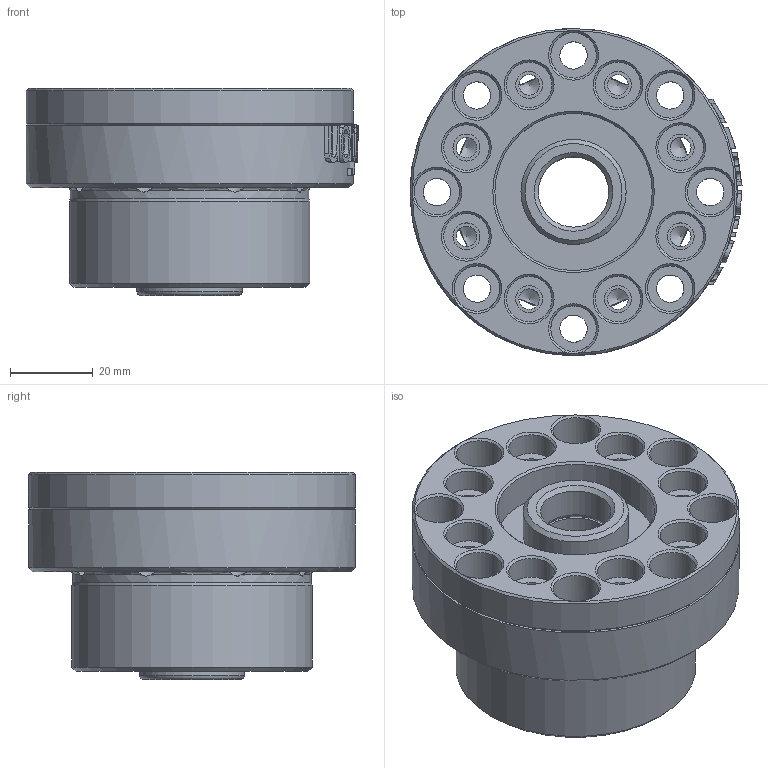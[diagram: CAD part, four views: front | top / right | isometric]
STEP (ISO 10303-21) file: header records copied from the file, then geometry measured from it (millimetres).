
FILE_DESCRIPTION(/* description */ (''),/* implementation_level */ '2;1');
FILE_NAME(/* name */ 'MBK17DF.stp',/* time_stamp */ '2016-10-26T18:37:31+08:00',/* author */ (''),/* organization */ (''),/* preprocessor_version */ 'ST-DEVELOPER v15',/* originating_system */ 'SIEMENS PLM Software NX 8.5',/* authorisation */ '');
FILE_SCHEMA (('CONFIG_CONTROL_DESIGN'));
Length unit declared in the file: millimetre
Products named in the file (1): MBK17DF
Bounding box: 80.18 x 79 x 50 mm (x, y, z)
Volume: 142278.9 mm3; surface area: 38855.3 mm2
Topology: 2 solids, 2 shells, 263 faces, 789 edges, 514 vertices
Faces by surface type: plane 88, cylinder 64, cone 57, extrusion 42, torus 12
Full cylindrical faces by diameter (mm): 5 x8, 6.5 x8, 6.6 x8, 11 x24, 17 x2, 25.4 x2, 38 x1, 47 x1, 57.6 x1, 58 x1, 79 x2
Entity records: 9235 total; most frequent: CARTESIAN_POINT 2942, ORIENTED_EDGE 1248, DIRECTION 1163, EDGE_CURVE 624, AXIS2_PLACEMENT_3D 499, VERTEX_POINT 460, EDGE_LOOP 418, FACE_BOUND 294
